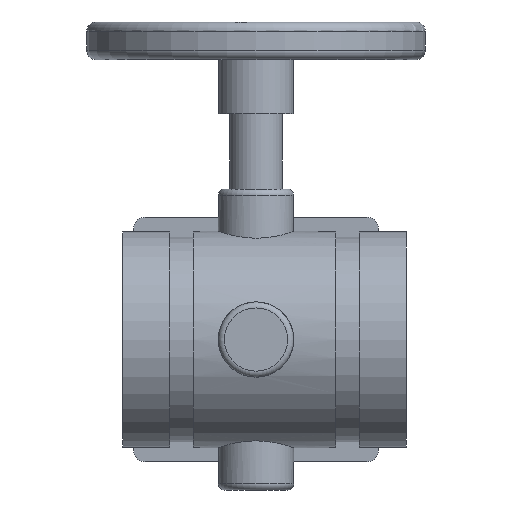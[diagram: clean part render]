
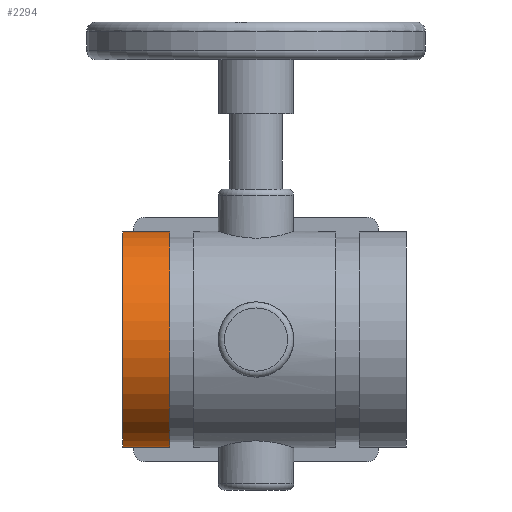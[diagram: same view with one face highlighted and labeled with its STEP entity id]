
A CAD part, front view. The second image highlights one B-rep face of the part: STEP entity #2294.
In plain terms, the highlighted cylindrical face has radius 36.513 mm (diameter 73.025 mm), a full revolution.
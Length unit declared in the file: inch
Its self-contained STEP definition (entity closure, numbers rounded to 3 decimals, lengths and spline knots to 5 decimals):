
#75=CYLINDRICAL_SURFACE('',#2493,1.4375);
#169=CIRCLE('',#2494,1.4375);
#170=CIRCLE('',#2495,1.4375);
#171=CIRCLE('',#2496,1.4375);
#172=CIRCLE('',#2497,1.4375);
#346=FACE_OUTER_BOUND('',#472,.T.);
#472=EDGE_LOOP('',(#1842,#1843,#1844,#1845,#1846,#1847));
#660=LINE('',#4201,#839);
#839=VECTOR('',#3021,1.4375);
#1034=VERTEX_POINT('',#4196);
#1035=VERTEX_POINT('',#4197);
#1036=VERTEX_POINT('',#4200);
#1037=VERTEX_POINT('',#4202);
#1326=EDGE_CURVE('',#1034,#1035,#169,.T.);
#1327=EDGE_CURVE('',#1035,#1034,#170,.T.);
#1328=EDGE_CURVE('',#1035,#1036,#660,.T.);
#1329=EDGE_CURVE('',#1036,#1037,#171,.T.);
#1330=EDGE_CURVE('',#1037,#1036,#172,.T.);
#1842=ORIENTED_EDGE('',*,*,#1326,.F.);
#1843=ORIENTED_EDGE('',*,*,#1327,.F.);
#1844=ORIENTED_EDGE('',*,*,#1328,.T.);
#1845=ORIENTED_EDGE('',*,*,#1329,.T.);
#1846=ORIENTED_EDGE('',*,*,#1330,.T.);
#1847=ORIENTED_EDGE('',*,*,#1328,.F.);
#2294=ADVANCED_FACE('',(#346),#75,.T.);
#2493=AXIS2_PLACEMENT_3D('',#4195,#3015,#3016);
#2494=AXIS2_PLACEMENT_3D('',#4198,#3017,#3018);
#2495=AXIS2_PLACEMENT_3D('',#4199,#3019,#3020);
#2496=AXIS2_PLACEMENT_3D('',#4203,#3022,#3023);
#2497=AXIS2_PLACEMENT_3D('',#4204,#3024,#3025);
#3015=DIRECTION('center_axis',(1.,0.,0.));
#3016=DIRECTION('ref_axis',(0.,1.,0.));
#3017=DIRECTION('center_axis',(1.,0.,0.));
#3018=DIRECTION('ref_axis',(0.,0.,1.));
#3019=DIRECTION('center_axis',(1.,0.,0.));
#3020=DIRECTION('ref_axis',(0.,0.,1.));
#3021=DIRECTION('',(-1.,0.,0.));
#3022=DIRECTION('center_axis',(1.,0.,0.));
#3023=DIRECTION('ref_axis',(0.,0.,1.));
#3024=DIRECTION('center_axis',(1.,0.,0.));
#3025=DIRECTION('ref_axis',(0.,0.,1.));
#4195=CARTESIAN_POINT('Origin',(-1.5725,0.,0.));
#4196=CARTESIAN_POINT('',(-1.26,1.4375,0.));
#4197=CARTESIAN_POINT('',(-1.26,-1.4375,0.));
#4198=CARTESIAN_POINT('Origin',(-1.26,0.,0.));
#4199=CARTESIAN_POINT('Origin',(-1.26,0.,0.));
#4200=CARTESIAN_POINT('',(-1.885,-1.4375,0.));
#4201=CARTESIAN_POINT('',(-1.5725,-1.4375,0.));
#4202=CARTESIAN_POINT('',(-1.885,1.4375,0.));
#4203=CARTESIAN_POINT('Origin',(-1.885,0.,0.));
#4204=CARTESIAN_POINT('Origin',(-1.885,0.,0.));
